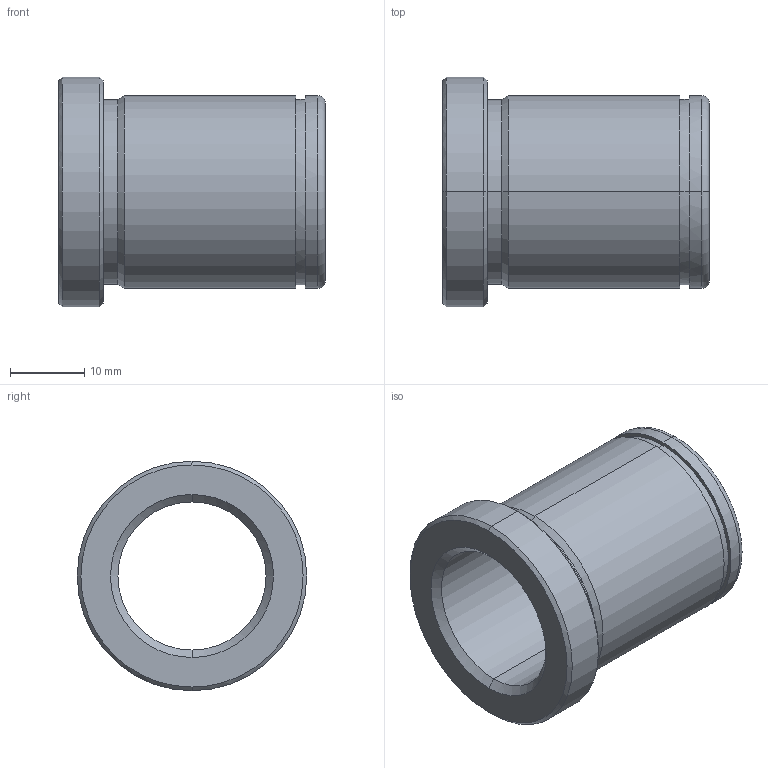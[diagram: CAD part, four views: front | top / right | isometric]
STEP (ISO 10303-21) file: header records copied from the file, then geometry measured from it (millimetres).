
FILE_DESCRIPTION(('CATIA V5 STEP Exchange'),'2;1');
FILE_NAME('C:\Users\Utente\Desktop\IO LAVORO\3D X SITO CF\X SITO\PLASTICA\553\553-20X36.stp','2021-05-23T18:10:01+00:00',('none'),('none'),'CATIA Version 5 Release 20 GA (IN-10)','CATIA V5 STEP AP203','none');
FILE_SCHEMA(('CONFIG_CONTROL_DESIGN'));
Length unit declared in the file: millimetre
Products named in the file (1): 553-20X36
Bounding box: 36 x 31 x 31 mm (x, y, z)
Volume: 8892 mm3; surface area: 6129 mm2
Topology: 1 solids, 1 shells, 29 faces, 92 edges, 68 vertices
Faces by surface type: cylinder 12, cone 8, plane 5, torus 4
Entity records: 1222 total; most frequent: CARTESIAN_POINT 368, ORIENTED_EDGE 184, DIRECTION 136, EDGE_CURVE 92, AXIS2_PLACEMENT_3D 88, VERTEX_POINT 68, CIRCLE 58, EDGE_LOOP 34
